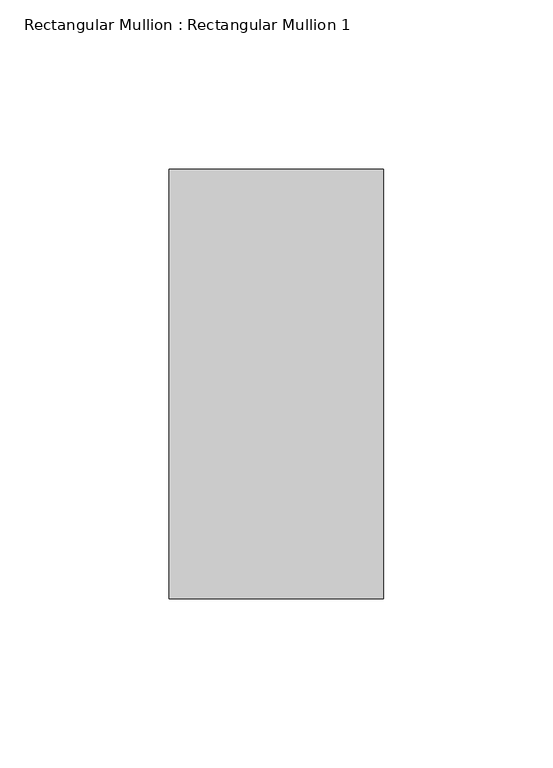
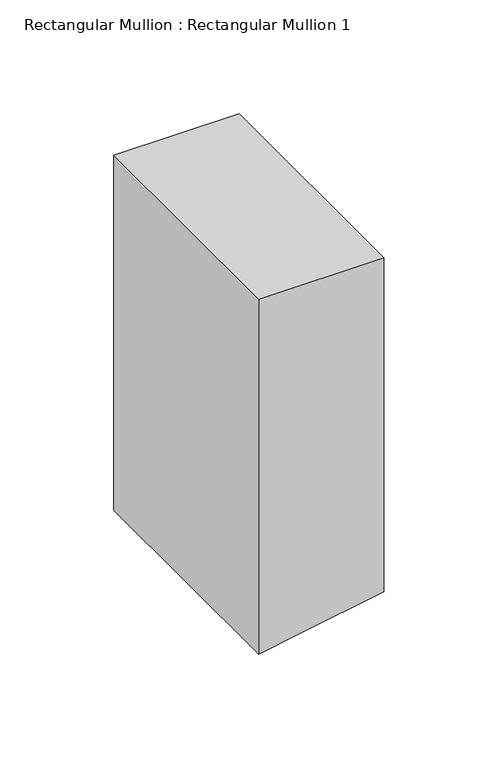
"""IFC4 building model written with IfcOpenShell, lengths in millimetres: member geometry, Rectangular Mullion : Rectangular Mullion 1."""

from ifc_helpers import new_model, si_unit, frame, origin, place, context, project, spatial, polyline, outline, extrude, source, transform, mapped, element, save


def rectangular_mullion_rectangular_mullion_1_58506ade(model_context):
    return source(origin(), model_context, "Body", "SweptSolid", [
        extrude(outline(polyline([(0.0, 31.75), (0.0, -31.75), (-190.3099346, -31.75), (-186.6558505, -11.0266593), (-179.1131713, 31.75), (0.0, 31.75)])), frame((0.0, -63.5, 0.0), z_axis=(0.0, 1.0, 0.0), x_axis=(0.0, 0.0, 1.0)), (0.0, 0.0, 1.0), 127.0),
    ])


if __name__ == "__main__":
    model = new_model("IFC4")
    model_context = context("Model", 3, world=origin())
    ifc_project = project(units=[si_unit("LENGTHUNIT", "METRE", prefix="MILLI")], contexts=[model_context])
    site = spatial("IfcSite", under=ifc_project)
    building = spatial("IfcBuilding", under=site)
    placement = place(None, origin())
    rectangular_mullion_rectangular_mullion_1_shape = rectangular_mullion_rectangular_mullion_1_58506ade(model_context)
    element("IfcMember", 1, ObjectType="Rectangular Mullion : Rectangular Mullion 1", at=placement, inside=building, context=model_context, shape_type="MappedRepresentation", body=[
        mapped(rectangular_mullion_rectangular_mullion_1_shape, transform((0.0, 0.0, 0.0), x_axis=(1.0, 0.0, 0.0), y_axis=(0.0, 1.0, 0.0), z_axis=(0.0, 0.0, 1.0))),
    ])
    save(model, "model.ifc")
